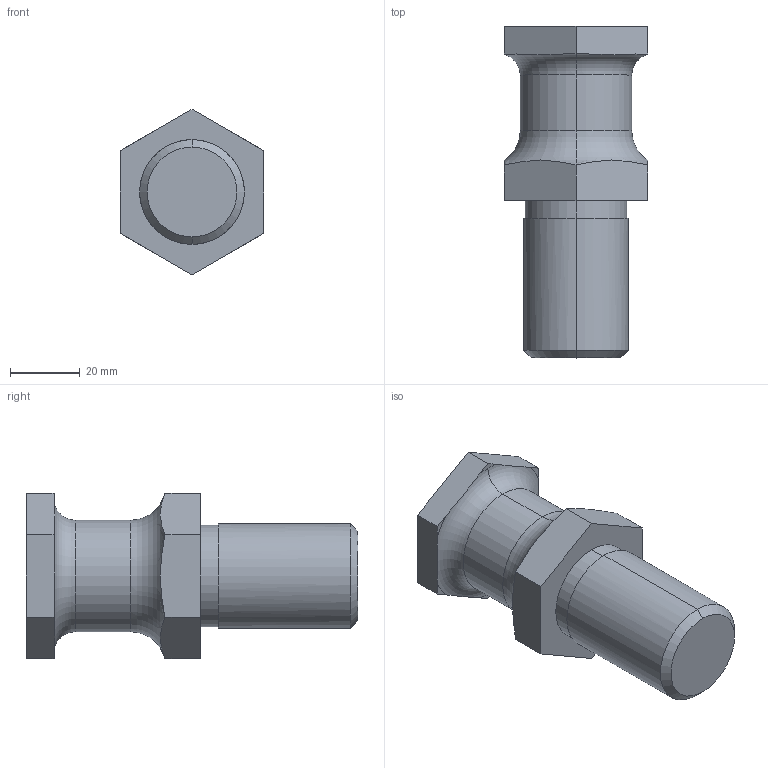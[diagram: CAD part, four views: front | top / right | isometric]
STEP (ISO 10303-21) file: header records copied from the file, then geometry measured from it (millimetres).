
FILE_DESCRIPTION(('CATIA V5 STEP Exchange'),'2;1');
FILE_NAME('C:\Users\Utente\Desktop\3D files 395P\395P-02-032-030.stp','2020-04-09T18:38:20+00:00',('none'),('none'),'CATIA Version 5 Release 20 GA (IN-10)','CATIA V5 STEP AP203','none');
FILE_SCHEMA(('CONFIG_CONTROL_DESIGN'));
Length unit declared in the file: millimetre
Products named in the file (1): _395P-02-032-030
Bounding box: 41 x 95 x 47.34 mm (x, y, z)
Volume: 86359.3 mm3; surface area: 13688.4 mm2
Topology: 1 solids, 1 shells, 34 faces, 100 edges, 70 vertices
Faces by surface type: plane 22, cylinder 6, torus 4, cone 2
Entity records: 1296 total; most frequent: CARTESIAN_POINT 375, ORIENTED_EDGE 200, DIRECTION 148, EDGE_CURVE 100, AXIS2_PLACEMENT_3D 71, VERTEX_POINT 70, VECTOR 44, LINE 44
